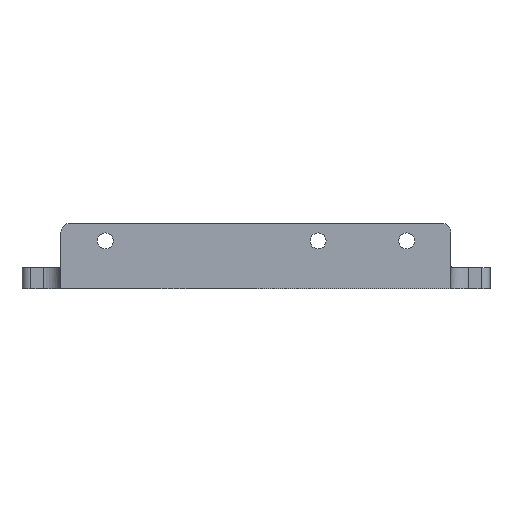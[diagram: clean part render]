
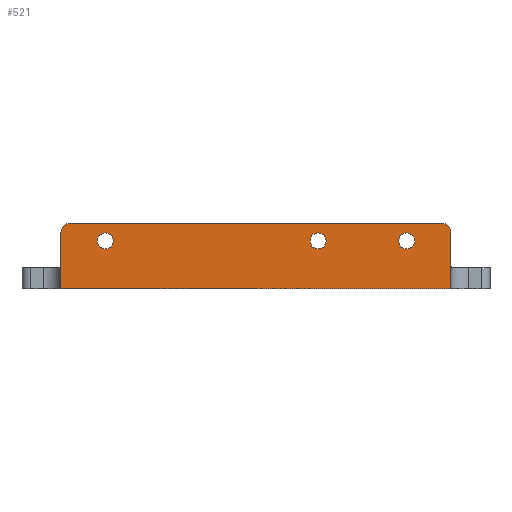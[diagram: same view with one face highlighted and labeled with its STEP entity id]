
A CAD part, left-side view. The second image highlights one B-rep face of the part: STEP entity #521.
In plain terms, the highlighted planar face has unit normal (-1, 0, 0).
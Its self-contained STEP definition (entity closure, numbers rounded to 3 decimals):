
#521=ADVANCED_FACE('',(#1192,#1194,#1196,#1198),#1200,.F.);
#1192=FACE_BOUND('',#1193,.T.);
#1193=EDGE_LOOP('',(#1730,#1731,#1732,#1733,#1734,#1735));
#1194=FACE_BOUND('',#1195,.T.);
#1195=EDGE_LOOP('',(#1736));
#1196=FACE_BOUND('',#1197,.T.);
#1197=EDGE_LOOP('',(#1737));
#1198=FACE_BOUND('',#1199,.T.);
#1199=EDGE_LOOP('',(#1738));
#1200=PLANE('',#1201);
#1201=AXIS2_PLACEMENT_3D('',#1202,#1203,#1204);
#1202=CARTESIAN_POINT('',(-73.,27.,0.));
#1203=DIRECTION('',(1.,0.,0.));
#1204=DIRECTION('',(0.,-1.,0.));
#1730=ORIENTED_EDGE('',*,*,#1992,.T.);
#1731=ORIENTED_EDGE('',*,*,#1993,.T.);
#1732=ORIENTED_EDGE('',*,*,#1990,.F.);
#1733=ORIENTED_EDGE('',*,*,#1913,.T.);
#1734=ORIENTED_EDGE('',*,*,#1994,.F.);
#1735=ORIENTED_EDGE('',*,*,#1995,.T.);
#1736=ORIENTED_EDGE('',*,*,#1996,.F.);
#1737=ORIENTED_EDGE('',*,*,#1997,.F.);
#1738=ORIENTED_EDGE('',*,*,#1998,.F.);
#1913=EDGE_CURVE('',#2194,#2192,#2195,.T.);
#1990=EDGE_CURVE('',#2194,#2315,#2316,.F.);
#1992=EDGE_CURVE('',#2318,#2319,#2320,.T.);
#1993=EDGE_CURVE('',#2319,#2315,#2321,.F.);
#1994=EDGE_CURVE('',#2322,#2192,#2323,.F.);
#1995=EDGE_CURVE('',#2322,#2318,#2324,.F.);
#1996=EDGE_CURVE('',#2325,#2325,#2326,.F.);
#1997=EDGE_CURVE('',#2327,#2327,#2328,.F.);
#1998=EDGE_CURVE('',#2329,#2329,#2330,.F.);
#2192=VERTEX_POINT('',#2767);
#2194=VERTEX_POINT('',#2771);
#2195=LINE('',#2772,#2773);
#2315=VERTEX_POINT('',#3146);
#2316=LINE('',#3147,#3148);
#2318=VERTEX_POINT('',#3153);
#2319=VERTEX_POINT('',#3154);
#2320=LINE('',#3155,#3156);
#2321=CIRCLE('',#3158,5.);
#2322=VERTEX_POINT('',#3162);
#2323=LINE('',#3163,#3164);
#2324=CIRCLE('',#3166,5.);
#2325=VERTEX_POINT('',#3170);
#2326=CIRCLE('',#3171,4.5);
#2327=VERTEX_POINT('',#3175);
#2328=CIRCLE('',#3176,4.5);
#2329=VERTEX_POINT('',#3180);
#2330=CIRCLE('',#3181,4.5);
#2767=CARTESIAN_POINT('',(-73.,-215.,-12.));
#2771=CARTESIAN_POINT('',(-73.,5.,-12.));
#2772=CARTESIAN_POINT('',(-73.,5.,-12.));
#2773=VECTOR('',#2774,1.);
#2774=DIRECTION('',(0.,-1.,0.));
#3146=CARTESIAN_POINT('',(-73.,5.,20.));
#3147=CARTESIAN_POINT('',(-73.,5.,20.));
#3148=VECTOR('',#3149,1.);
#3149=DIRECTION('',(0.,0.,-1.));
#3153=CARTESIAN_POINT('',(-73.,-210.,25.));
#3154=CARTESIAN_POINT('',(-73.,0.,25.));
#3155=CARTESIAN_POINT('',(-73.,-210.,25.));
#3156=VECTOR('',#3157,1.);
#3157=DIRECTION('',(0.,1.,0.));
#3158=AXIS2_PLACEMENT_3D('',#3159,#3160,#3161);
#3159=CARTESIAN_POINT('',(-73.,0.,20.));
#3160=DIRECTION('',(1.,0.,0.));
#3161=DIRECTION('',(0.,1.,0.));
#3162=CARTESIAN_POINT('',(-73.,-215.,20.));
#3163=CARTESIAN_POINT('',(-73.,-215.,-12.));
#3164=VECTOR('',#3165,1.);
#3165=DIRECTION('',(0.,0.,1.));
#3166=AXIS2_PLACEMENT_3D('',#3167,#3168,#3169);
#3167=CARTESIAN_POINT('',(-73.,-210.,20.));
#3168=DIRECTION('',(1.,0.,0.));
#3169=DIRECTION('',(0.,0.,1.));
#3170=CARTESIAN_POINT('',(-73.,-20.,19.5));
#3171=AXIS2_PLACEMENT_3D('',#3172,#3173,#3174);
#3172=CARTESIAN_POINT('',(-73.,-20.,15.));
#3173=DIRECTION('',(1.,0.,0.));
#3174=DIRECTION('',(0.,0.,1.));
#3175=CARTESIAN_POINT('',(-73.,-140.,19.5));
#3176=AXIS2_PLACEMENT_3D('',#3177,#3178,#3179);
#3177=CARTESIAN_POINT('',(-73.,-140.,15.));
#3178=DIRECTION('',(1.,0.,0.));
#3179=DIRECTION('',(0.,0.,1.));
#3180=CARTESIAN_POINT('',(-73.,-190.,19.5));
#3181=AXIS2_PLACEMENT_3D('',#3182,#3183,#3184);
#3182=CARTESIAN_POINT('',(-73.,-190.,15.));
#3183=DIRECTION('',(1.,0.,0.));
#3184=DIRECTION('',(0.,0.,1.));
